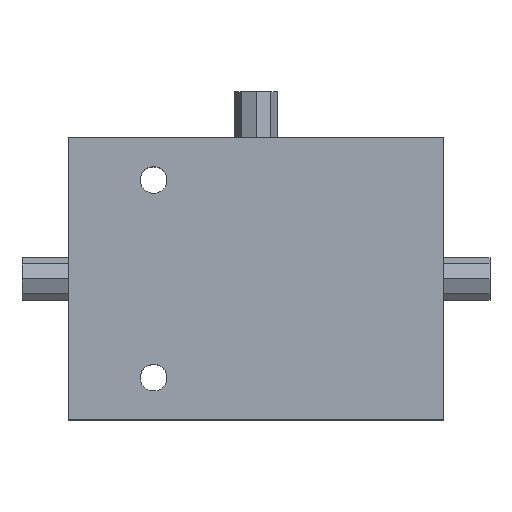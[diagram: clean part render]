
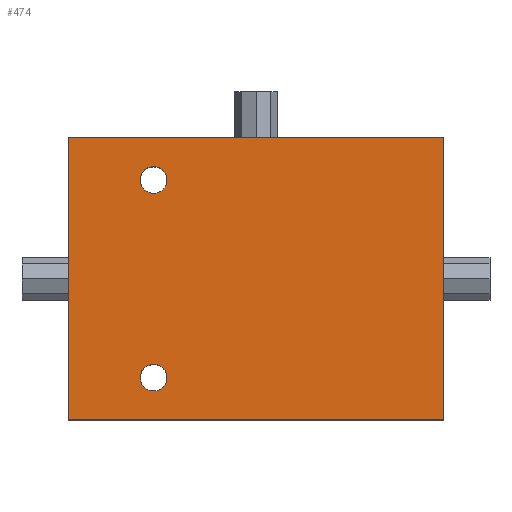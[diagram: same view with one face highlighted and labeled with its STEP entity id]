
A CAD part, top view. The second image highlights one B-rep face of the part: STEP entity #474.
In plain terms, the highlighted planar face has unit normal (0, 0, 1).
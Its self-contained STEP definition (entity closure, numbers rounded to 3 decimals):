
#24 = VERTEX_POINT('',#25);
#25 = CARTESIAN_POINT('',(-30.215,-22.7,18.55));
#32 = PLANE('',#33);
#33 = AXIS2_PLACEMENT_3D('',#34,#35,#36);
#34 = CARTESIAN_POINT('',(-30.215,-22.7,-18.55));
#35 = DIRECTION('',(1.,0.,0.));
#36 = DIRECTION('',(0.,0.,1.));
#44 = PLANE('',#45);
#45 = AXIS2_PLACEMENT_3D('',#46,#47,#48);
#46 = CARTESIAN_POINT('',(-30.215,-22.7,-18.55));
#47 = DIRECTION('',(0.,1.,0.));
#48 = DIRECTION('',(0.,0.,1.));
#85 = VERTEX_POINT('',#86);
#86 = CARTESIAN_POINT('',(-30.215,22.7,18.55));
#100 = PLANE('',#101);
#101 = AXIS2_PLACEMENT_3D('',#102,#103,#104);
#102 = CARTESIAN_POINT('',(-30.215,22.7,-18.55));
#103 = DIRECTION('',(0.,1.,0.));
#104 = DIRECTION('',(0.,0.,1.));
#112 = EDGE_CURVE('',#24,#85,#113,.T.);
#113 = SURFACE_CURVE('',#114,(#118,#125),.PCURVE_S1.);
#114 = LINE('',#115,#116);
#115 = CARTESIAN_POINT('',(-30.215,-22.7,18.55));
#116 = VECTOR('',#117,1.);
#117 = DIRECTION('',(0.,1.,0.));
#118 = PCURVE('',#32,#119);
#119 = DEFINITIONAL_REPRESENTATION('',(#120),#124);
#120 = LINE('',#121,#122);
#121 = CARTESIAN_POINT('',(37.1,0.));
#122 = VECTOR('',#123,1.);
#123 = DIRECTION('',(0.,-1.));
#124 = ( GEOMETRIC_REPRESENTATION_CONTEXT(2) 
PARAMETRIC_REPRESENTATION_CONTEXT() REPRESENTATION_CONTEXT('2D SPACE',''
  ) );
#125 = PCURVE('',#126,#131);
#126 = PLANE('',#127);
#127 = AXIS2_PLACEMENT_3D('',#128,#129,#130);
#128 = CARTESIAN_POINT('',(-30.215,-22.7,18.55));
#129 = DIRECTION('',(0.,0.,1.));
#130 = DIRECTION('',(1.,0.,0.));
#131 = DEFINITIONAL_REPRESENTATION('',(#132),#136);
#132 = LINE('',#133,#134);
#133 = CARTESIAN_POINT('',(0.,0.));
#134 = VECTOR('',#135,1.);
#135 = DIRECTION('',(0.,1.));
#136 = ( GEOMETRIC_REPRESENTATION_CONTEXT(2) 
PARAMETRIC_REPRESENTATION_CONTEXT() REPRESENTATION_CONTEXT('2D SPACE',''
  ) );
#391 = EDGE_CURVE('',#24,#392,#394,.T.);
#392 = VERTEX_POINT('',#393);
#393 = CARTESIAN_POINT('',(30.215,-22.7,18.55));
#394 = SURFACE_CURVE('',#395,(#399,#406),.PCURVE_S1.);
#395 = LINE('',#396,#397);
#396 = CARTESIAN_POINT('',(-30.215,-22.7,18.55));
#397 = VECTOR('',#398,1.);
#398 = DIRECTION('',(1.,0.,0.));
#399 = PCURVE('',#44,#400);
#400 = DEFINITIONAL_REPRESENTATION('',(#401),#405);
#401 = LINE('',#402,#403);
#402 = CARTESIAN_POINT('',(37.1,0.));
#403 = VECTOR('',#404,1.);
#404 = DIRECTION('',(0.,1.));
#405 = ( GEOMETRIC_REPRESENTATION_CONTEXT(2) 
PARAMETRIC_REPRESENTATION_CONTEXT() REPRESENTATION_CONTEXT('2D SPACE',''
  ) );
#406 = PCURVE('',#126,#407);
#407 = DEFINITIONAL_REPRESENTATION('',(#408),#412);
#408 = LINE('',#409,#410);
#409 = CARTESIAN_POINT('',(0.,0.));
#410 = VECTOR('',#411,1.);
#411 = DIRECTION('',(1.,0.));
#412 = ( GEOMETRIC_REPRESENTATION_CONTEXT(2) 
PARAMETRIC_REPRESENTATION_CONTEXT() REPRESENTATION_CONTEXT('2D SPACE',''
  ) );
#428 = PLANE('',#429);
#429 = AXIS2_PLACEMENT_3D('',#430,#431,#432);
#430 = CARTESIAN_POINT('',(30.215,-22.7,-18.55));
#431 = DIRECTION('',(1.,0.,0.));
#432 = DIRECTION('',(0.,0.,1.));
#474 = ADVANCED_FACE('',(#475,#523,#558),#126,.T.);
#475 = FACE_BOUND('',#476,.T.);
#476 = EDGE_LOOP('',(#477,#478,#479,#502));
#477 = ORIENTED_EDGE('',*,*,#112,.F.);
#478 = ORIENTED_EDGE('',*,*,#391,.T.);
#479 = ORIENTED_EDGE('',*,*,#480,.T.);
#480 = EDGE_CURVE('',#392,#481,#483,.T.);
#481 = VERTEX_POINT('',#482);
#482 = CARTESIAN_POINT('',(30.215,22.7,18.55));
#483 = SURFACE_CURVE('',#484,(#488,#495),.PCURVE_S1.);
#484 = LINE('',#485,#486);
#485 = CARTESIAN_POINT('',(30.215,-22.7,18.55));
#486 = VECTOR('',#487,1.);
#487 = DIRECTION('',(0.,1.,0.));
#488 = PCURVE('',#126,#489);
#489 = DEFINITIONAL_REPRESENTATION('',(#490),#494);
#490 = LINE('',#491,#492);
#491 = CARTESIAN_POINT('',(60.43,0.));
#492 = VECTOR('',#493,1.);
#493 = DIRECTION('',(0.,1.));
#494 = ( GEOMETRIC_REPRESENTATION_CONTEXT(2) 
PARAMETRIC_REPRESENTATION_CONTEXT() REPRESENTATION_CONTEXT('2D SPACE',''
  ) );
#495 = PCURVE('',#428,#496);
#496 = DEFINITIONAL_REPRESENTATION('',(#497),#501);
#497 = LINE('',#498,#499);
#498 = CARTESIAN_POINT('',(37.1,0.));
#499 = VECTOR('',#500,1.);
#500 = DIRECTION('',(0.,-1.));
#501 = ( GEOMETRIC_REPRESENTATION_CONTEXT(2) 
PARAMETRIC_REPRESENTATION_CONTEXT() REPRESENTATION_CONTEXT('2D SPACE',''
  ) );
#502 = ORIENTED_EDGE('',*,*,#503,.F.);
#503 = EDGE_CURVE('',#85,#481,#504,.T.);
#504 = SURFACE_CURVE('',#505,(#509,#516),.PCURVE_S1.);
#505 = LINE('',#506,#507);
#506 = CARTESIAN_POINT('',(-30.215,22.7,18.55));
#507 = VECTOR('',#508,1.);
#508 = DIRECTION('',(1.,0.,0.));
#509 = PCURVE('',#126,#510);
#510 = DEFINITIONAL_REPRESENTATION('',(#511),#515);
#511 = LINE('',#512,#513);
#512 = CARTESIAN_POINT('',(0.,45.4));
#513 = VECTOR('',#514,1.);
#514 = DIRECTION('',(1.,0.));
#515 = ( GEOMETRIC_REPRESENTATION_CONTEXT(2) 
PARAMETRIC_REPRESENTATION_CONTEXT() REPRESENTATION_CONTEXT('2D SPACE',''
  ) );
#516 = PCURVE('',#100,#517);
#517 = DEFINITIONAL_REPRESENTATION('',(#518),#522);
#518 = LINE('',#519,#520);
#519 = CARTESIAN_POINT('',(37.1,0.));
#520 = VECTOR('',#521,1.);
#521 = DIRECTION('',(0.,1.));
#522 = ( GEOMETRIC_REPRESENTATION_CONTEXT(2) 
PARAMETRIC_REPRESENTATION_CONTEXT() REPRESENTATION_CONTEXT('2D SPACE',''
  ) );
#523 = FACE_BOUND('',#524,.T.);
#524 = EDGE_LOOP('',(#525));
#525 = ORIENTED_EDGE('',*,*,#526,.T.);
#526 = EDGE_CURVE('',#527,#527,#529,.T.);
#527 = VERTEX_POINT('',#528);
#528 = CARTESIAN_POINT('',(-18.615,-15.89,18.55));
#529 = SURFACE_CURVE('',#530,(#535,#546),.PCURVE_S1.);
#530 = CIRCLE('',#531,2.15);
#531 = AXIS2_PLACEMENT_3D('',#532,#533,#534);
#532 = CARTESIAN_POINT('',(-16.465,-15.89,18.55));
#533 = DIRECTION('',(0.,0.,-1.));
#534 = DIRECTION('',(-1.,0.,0.));
#535 = PCURVE('',#126,#536);
#536 = DEFINITIONAL_REPRESENTATION('',(#537),#545);
#537 = ( BOUNDED_CURVE() B_SPLINE_CURVE(2,(#538,#539,#540,#541,#542,#543
,#544),.UNSPECIFIED.,.T.,.F.) B_SPLINE_CURVE_WITH_KNOTS((1,2,2,2,2,1),(
    -2.094,0.,2.094,4.189,6.283,
8.378),.UNSPECIFIED.) CURVE() GEOMETRIC_REPRESENTATION_ITEM() 
RATIONAL_B_SPLINE_CURVE((1.,0.5,1.,0.5,1.,0.5,1.)) REPRESENTATION_ITEM(
  '') );
#538 = CARTESIAN_POINT('',(11.601,6.81));
#539 = CARTESIAN_POINT('',(11.601,10.534));
#540 = CARTESIAN_POINT('',(14.826,8.672));
#541 = CARTESIAN_POINT('',(18.051,6.81));
#542 = CARTESIAN_POINT('',(14.826,4.948));
#543 = CARTESIAN_POINT('',(11.601,3.086));
#544 = CARTESIAN_POINT('',(11.601,6.81));
#545 = ( GEOMETRIC_REPRESENTATION_CONTEXT(2) 
PARAMETRIC_REPRESENTATION_CONTEXT() REPRESENTATION_CONTEXT('2D SPACE',''
  ) );
#546 = PCURVE('',#547,#552);
#547 = CYLINDRICAL_SURFACE('',#548,2.15);
#548 = AXIS2_PLACEMENT_3D('',#549,#550,#551);
#549 = CARTESIAN_POINT('',(-16.465,-15.89,18.55));
#550 = DIRECTION('',(0.,0.,-1.));
#551 = DIRECTION('',(-1.,0.,0.));
#552 = DEFINITIONAL_REPRESENTATION('',(#553),#557);
#553 = LINE('',#554,#555);
#554 = CARTESIAN_POINT('',(0.,0.));
#555 = VECTOR('',#556,1.);
#556 = DIRECTION('',(1.,0.));
#557 = ( GEOMETRIC_REPRESENTATION_CONTEXT(2) 
PARAMETRIC_REPRESENTATION_CONTEXT() REPRESENTATION_CONTEXT('2D SPACE',''
  ) );
#558 = FACE_BOUND('',#559,.T.);
#559 = EDGE_LOOP('',(#560));
#560 = ORIENTED_EDGE('',*,*,#561,.T.);
#561 = EDGE_CURVE('',#562,#562,#564,.T.);
#562 = VERTEX_POINT('',#563);
#563 = CARTESIAN_POINT('',(-18.615,15.89,18.55));
#564 = SURFACE_CURVE('',#565,(#570,#581),.PCURVE_S1.);
#565 = CIRCLE('',#566,2.15);
#566 = AXIS2_PLACEMENT_3D('',#567,#568,#569);
#567 = CARTESIAN_POINT('',(-16.465,15.89,18.55));
#568 = DIRECTION('',(0.,0.,-1.));
#569 = DIRECTION('',(-1.,0.,0.));
#570 = PCURVE('',#126,#571);
#571 = DEFINITIONAL_REPRESENTATION('',(#572),#580);
#572 = ( BOUNDED_CURVE() B_SPLINE_CURVE(2,(#573,#574,#575,#576,#577,#578
,#579),.UNSPECIFIED.,.T.,.F.) B_SPLINE_CURVE_WITH_KNOTS((1,2,2,2,2,1),(
    -2.094,0.,2.094,4.189,6.283,
8.378),.UNSPECIFIED.) CURVE() GEOMETRIC_REPRESENTATION_ITEM() 
RATIONAL_B_SPLINE_CURVE((1.,0.5,1.,0.5,1.,0.5,1.)) REPRESENTATION_ITEM(
  '') );
#573 = CARTESIAN_POINT('',(11.601,38.59));
#574 = CARTESIAN_POINT('',(11.601,42.314));
#575 = CARTESIAN_POINT('',(14.826,40.452));
#576 = CARTESIAN_POINT('',(18.051,38.59));
#577 = CARTESIAN_POINT('',(14.826,36.728));
#578 = CARTESIAN_POINT('',(11.601,34.866));
#579 = CARTESIAN_POINT('',(11.601,38.59));
#580 = ( GEOMETRIC_REPRESENTATION_CONTEXT(2) 
PARAMETRIC_REPRESENTATION_CONTEXT() REPRESENTATION_CONTEXT('2D SPACE',''
  ) );
#581 = PCURVE('',#582,#587);
#582 = CYLINDRICAL_SURFACE('',#583,2.15);
#583 = AXIS2_PLACEMENT_3D('',#584,#585,#586);
#584 = CARTESIAN_POINT('',(-16.465,15.89,18.55));
#585 = DIRECTION('',(0.,0.,-1.));
#586 = DIRECTION('',(-1.,0.,0.));
#587 = DEFINITIONAL_REPRESENTATION('',(#588),#592);
#588 = LINE('',#589,#590);
#589 = CARTESIAN_POINT('',(0.,0.));
#590 = VECTOR('',#591,1.);
#591 = DIRECTION('',(1.,0.));
#592 = ( GEOMETRIC_REPRESENTATION_CONTEXT(2) 
PARAMETRIC_REPRESENTATION_CONTEXT() REPRESENTATION_CONTEXT('2D SPACE',''
  ) );
